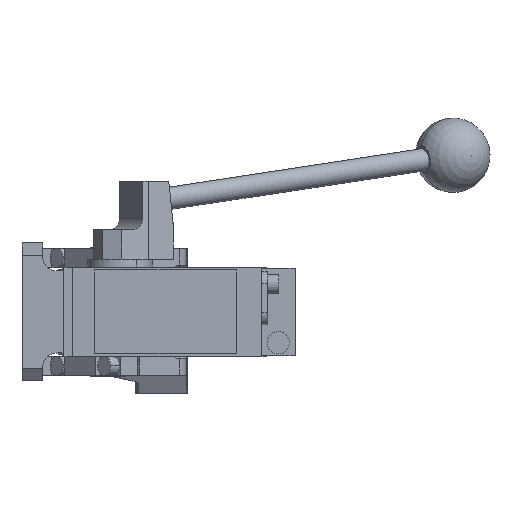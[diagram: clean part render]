
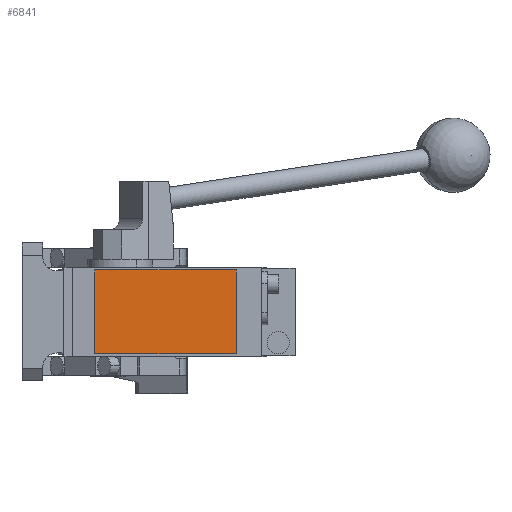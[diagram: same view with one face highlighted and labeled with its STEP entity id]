
A CAD part, front view. The second image highlights one B-rep face of the part: STEP entity #6841.
In plain terms, the highlighted planar face has unit normal (0, -1, 0).
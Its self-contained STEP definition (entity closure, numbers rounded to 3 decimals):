
#215 = CARTESIAN_POINT ( 'NONE',  ( -7., -280.5, -22.5 ) ) ;
#422 = EDGE_CURVE ( 'NONE', #3180, #15197, #1631, .T. ) ;
#839 = DIRECTION ( 'NONE',  ( 0., 0., -1. ) ) ;
#1100 = ORIENTED_EDGE ( 'NONE', *, *, #14249, .T. ) ;
#1323 = EDGE_CURVE ( 'NONE', #15197, #15271, #10163, .T. ) ;
#1331 = AXIS2_PLACEMENT_3D ( 'NONE', #10460, #2775, #15442 ) ;
#1631 = LINE ( 'NONE', #1797, #9004 ) ;
#1668 = CARTESIAN_POINT ( 'NONE',  ( -7., -280.5, 22.5 ) ) ;
#1675 = LINE ( 'NONE', #215, #8474 ) ;
#1797 = CARTESIAN_POINT ( 'NONE',  ( 69., -280.5, 22.5 ) ) ;
#2176 = CARTESIAN_POINT ( 'NONE',  ( 69., -280.5, -22.5 ) ) ;
#2182 = EDGE_CURVE ( 'NONE', #15271, #2593, #5434, .T. ) ;
#2593 = VERTEX_POINT ( 'NONE', #10876 ) ;
#2737 = ORIENTED_EDGE ( 'NONE', *, *, #422, .T. ) ;
#2775 = DIRECTION ( 'NONE',  ( 0., -1., 0. ) ) ;
#3180 = VERTEX_POINT ( 'NONE', #2176 ) ;
#4420 = ORIENTED_EDGE ( 'NONE', *, *, #1323, .T. ) ;
#5434 = LINE ( 'NONE', #9457, #11001 ) ;
#5680 = EDGE_LOOP ( 'NONE', ( #6083, #1100, #2737, #4420 ) ) ;
#6083 = ORIENTED_EDGE ( 'NONE', *, *, #2182, .T. ) ;
#6841 = ADVANCED_FACE ( 'NONE', ( #7887 ), #13908, .T. ) ;
#7887 = FACE_OUTER_BOUND ( 'NONE', #5680, .T. ) ;
#8156 = CARTESIAN_POINT ( 'NONE',  ( 69., -280.5, 22.5 ) ) ;
#8474 = VECTOR ( 'NONE', #13867, 1000. ) ;
#8788 = VECTOR ( 'NONE', #13770, 1000. ) ;
#9004 = VECTOR ( 'NONE', #15193, 1000. ) ;
#9457 = CARTESIAN_POINT ( 'NONE',  ( -7., -280.5, 22.5 ) ) ;
#10163 = LINE ( 'NONE', #11541, #8788 ) ;
#10460 = CARTESIAN_POINT ( 'NONE',  ( 0., -280.5, 0. ) ) ;
#10876 = CARTESIAN_POINT ( 'NONE',  ( -7., -280.5, -22.5 ) ) ;
#11001 = VECTOR ( 'NONE', #839, 1000. ) ;
#11541 = CARTESIAN_POINT ( 'NONE',  ( -7., -280.5, 22.5 ) ) ;
#13770 = DIRECTION ( 'NONE',  ( -1., 0., 0. ) ) ;
#13867 = DIRECTION ( 'NONE',  ( 1., 0., 0. ) ) ;
#13908 = PLANE ( 'NONE',  #1331 ) ;
#14249 = EDGE_CURVE ( 'NONE', #2593, #3180, #1675, .T. ) ;
#15193 = DIRECTION ( 'NONE',  ( 0., 0., 1. ) ) ;
#15197 = VERTEX_POINT ( 'NONE', #8156 ) ;
#15271 = VERTEX_POINT ( 'NONE', #1668 ) ;
#15442 = DIRECTION ( 'NONE',  ( 0., 0., -1. ) ) ;
